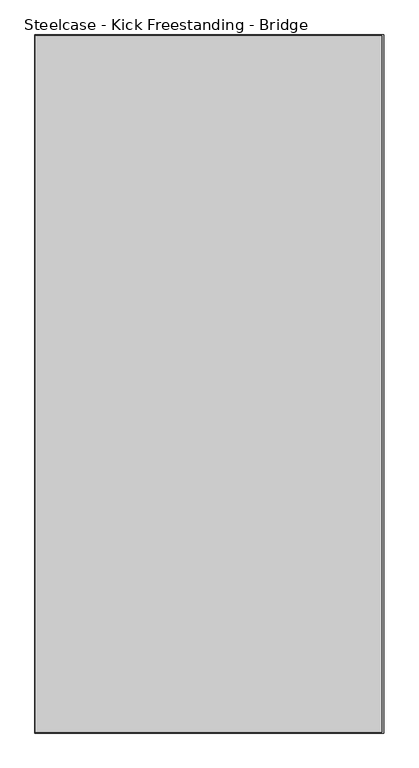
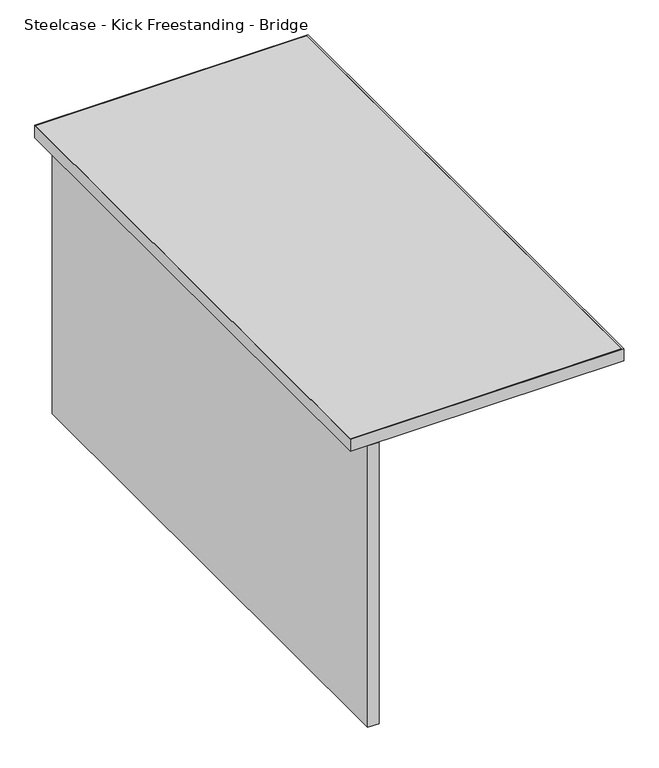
"""IFC4 building model written with IfcOpenShell, lengths in millimetres: furniture geometry, Steelcase - Kick Freestanding - Bridge : 24D x 48W - Full Panel."""

from ifc_helpers import new_model, si_unit, frame, origin, place, context, project, spatial, polyline, outline, extrude, source, transform, mapped, element, save


def steelcase_kick_freestanding_bridge_43c4f1e0(model_context):
    return source(origin(), model_context, "Body", "SweptSolid", [
        extrude(outline(polyline([(2201.9594425, -1766.0145152), (2201.9594425, -546.8145152), (2227.3594425, -546.8145152), (2227.3594425, -1766.0145152), (2201.9594425, -1766.0145152)])), frame((0.0, 0.0, 18.542), z_axis=(0.0, 0.0, 1.0), x_axis=(1.0, 0.0, 0.0)), (0.0, 0.0, 1.0), 663.702),
        extrude(outline(polyline([(2769.2176592, -548.0845152), (2769.2176592, -1764.7445152), (2164.8500425, -1764.7445152), (2164.8500425, -548.0845152), (2769.2176592, -548.0845152)])), frame((0.0, 0.0, 682.244), z_axis=(0.0, 0.0, 1.0), x_axis=(1.0, 0.0, 0.0)), (0.0, 0.0, 1.0), 28.956),
        extrude(outline(polyline([(2773.4594425, -546.8145152), (2773.4594425, -1766.0145152), (2163.8594425, -1766.0145152), (2163.8594425, -546.8145152), (2773.4594425, -546.8145152)]), holes=[polyline([(2769.2176592, -548.0845152), (2164.8500425, -548.0845152), (2164.8500425, -1764.7445152), (2769.2176592, -1764.7445152), (2769.2176592, -548.0845152)])]), frame((0.0, 0.0, 682.244), z_axis=(0.0, 0.0, 1.0), x_axis=(1.0, 0.0, 0.0)), (0.0, 0.0, 1.0), 28.956),
    ])


if __name__ == "__main__":
    model = new_model("IFC4")
    model_context = context("Model", 3, world=origin())
    ifc_project = project(units=[si_unit("LENGTHUNIT", "METRE", prefix="MILLI")], contexts=[model_context])
    site = spatial("IfcSite", under=ifc_project)
    building = spatial("IfcBuilding", under=site)
    placement = place(None, origin())
    steelcase_kick_freestanding_bridge_shape = steelcase_kick_freestanding_bridge_43c4f1e0(model_context)
    element("IfcFurniture", 1, ObjectType="Steelcase - Kick Freestanding - Bridge : 24D x 48W - Full Panel", at=placement, inside=building, context=model_context, shape_type="MappedRepresentation", body=[
        mapped(steelcase_kick_freestanding_bridge_shape, transform((0.0, 0.0, 0.0), x_axis=(1.0, 0.0, 0.0), y_axis=(0.0, 1.0, 0.0), z_axis=(0.0, 0.0, 1.0))),
    ])
    save(model, "model.ifc")
